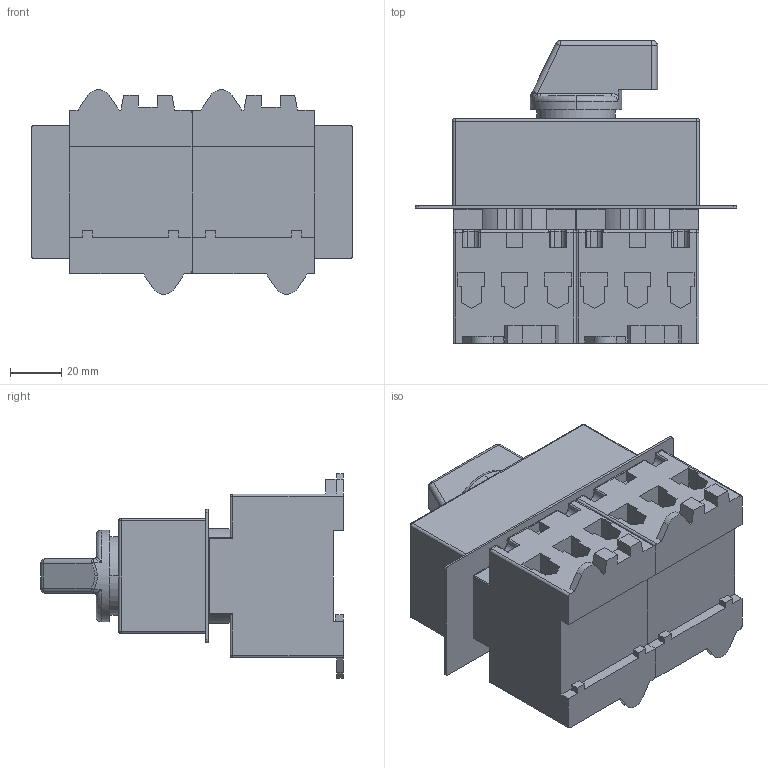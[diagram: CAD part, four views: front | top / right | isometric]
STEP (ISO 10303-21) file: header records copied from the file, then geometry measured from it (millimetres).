
FILE_DESCRIPTION (( 'STEP AP203' ), '1' );
FILE_NAME ('LTS63_80 SMAH1 A6.STEP', '2014-05-13T08:30:04', ( '' ), ( '' ), 'SwSTEP 2.0', 'SolidWorks 2014', '' );
FILE_SCHEMA (( 'CONFIG_CONTROL_DESIGN' ));
Length unit declared in the file: millimetre
Products named in the file (4): G2_64x64_nur griff; LTS63 VZV A3_Schaltkörper_ohne zwischenring; LTS63_80 SMAH1 A6; Abdeckung_Schlitzverteiler_Umschalter_LT
Assembly tree (4 placements, depth 2):
  LTS63_80 SMAH1 A6
    LTS63 VZV A3_Schaltkörper_ohne zwischenring  x2
    Abdeckung_Schlitzverteiler_Umschalter_LT
    G2_64x64_nur griff
Bounding box: 125.4 x 118.3 x 80 mm (x, y, z)
Volume: 428067.1 mm3; surface area: 77912.1 mm2
Topology: 4 solids, 4 shells, 520 faces, 1343 edges, 825 vertices
Faces by surface type: plane 262, cylinder 164, bspline 32, cone 24, torus 20, sphere 18
Entity records: 9842 total; most frequent: CARTESIAN_POINT 2416, ORIENTED_EDGE 1470, DIRECTION 1442, EDGE_CURVE 735, AXIS2_PLACEMENT_3D 483, VECTOR 476, LINE 476, VERTEX_POINT 457
